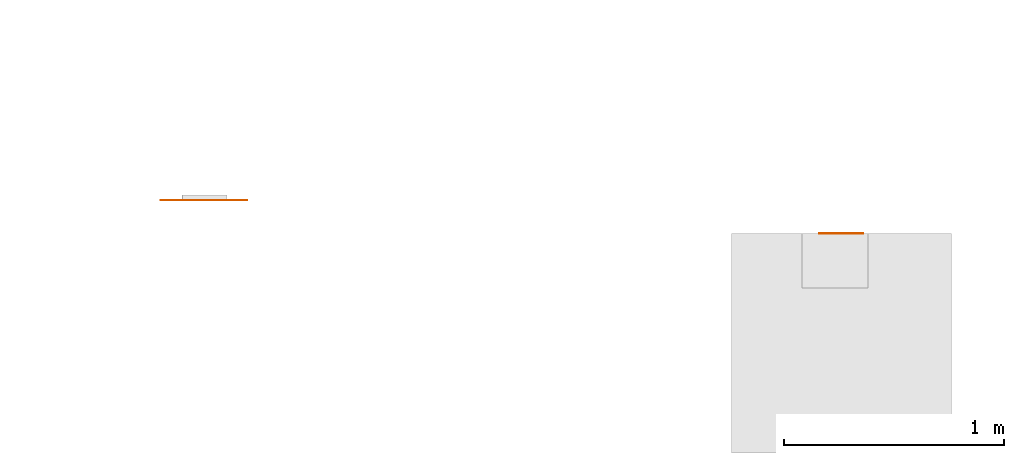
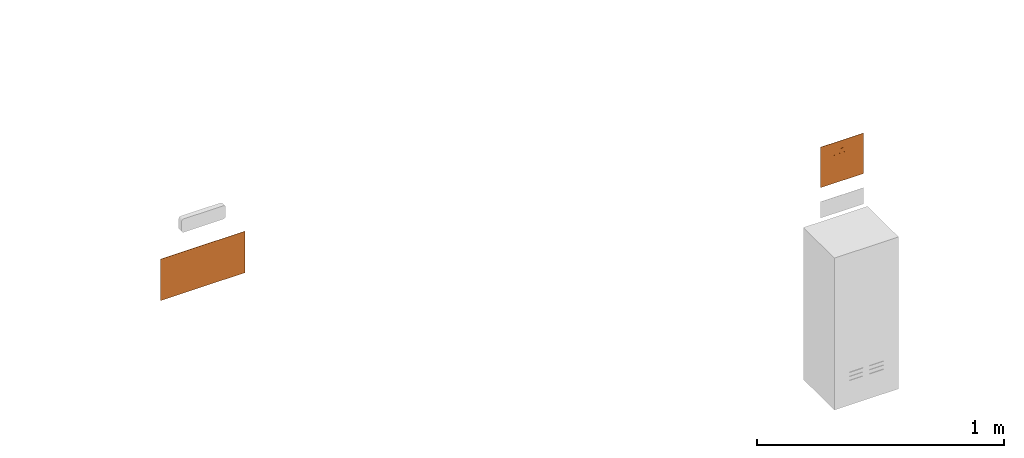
# One storey, part 111 of 119: 2 proxies.
"""IFC2X3 building model written with IfcOpenShell, lengths in metres."""

import ifcopenshell
import ifcopenshell.guid

model = None  # the IFC model being written
_history = None  # IfcOwnerHistory: only IFC2X3 demands one
_inside = {}  # id of a spatial element -> (the spatial element, [elements in it])
_under = {}  # id of a project, library or spatial element -> (it, [spatial elements below it])
_declared = {}  # id of a project -> (the project, [libraries it declares])
_typed = {}  # id of a type object -> (the type object, [elements of that type])
_made_of = {}  # id of a material, layer set ... -> (it, [elements and type objects made of it])


def new_model(schema):
    """Start an empty IFC model of exactly this schema.

    Asked for "IFC4X3", IfcOpenShell would pick the latest addendum, in which some entities
    have other attributes; the version numbers below select the first issue.
    IFC2X3 requires an IfcOwnerHistory on every rooted entity: one is made here for all.
    """
    global model, _history
    if schema == "IFC4X3":
        model = ifcopenshell.file(schema_version=(4, 3, 0, 0))
    else:
        model = ifcopenshell.file(schema=schema)
    _inside.clear()
    _under.clear()
    _declared.clear()
    _typed.clear()
    _made_of.clear()
    _history = None
    if model.schema == "IFC2X3":
        org = make("IfcOrganization", Name="unknown")
        user = make(
            "IfcPersonAndOrganization",
            ThePerson=make("IfcPerson", FamilyName="unknown"),
            TheOrganization=org,
        )
        app = make(
            "IfcApplication",
            ApplicationDeveloper=org,
            Version="unknown",
            ApplicationFullName="unknown",
            ApplicationIdentifier="unknown",
        )
        _history = make(
            "IfcOwnerHistory",
            OwningUser=user,
            OwningApplication=app,
            ChangeAction="ADDED",
            CreationDate=0,
        )
    return model


def make(cls, **values):
    """One entity of the class cls with the attributes given. An attribute that is None is left unset."""
    return model.create_entity(
        cls, **{name: value for name, value in values.items() if value is not None}
    )


def entity(cls, *values):
    """Any entity or typed value of the class cls, its attributes in the order of the schema. None: left unset."""
    e = model.create_entity(cls)
    for i, value in enumerate(values):
        if value is not None:
            e[i] = value
    return e


def rooted(cls, **values):
    """An entity with a GlobalId (a new one), such as an element, a storey or a relation."""
    return make(cls, GlobalId=ifcopenshell.guid.new(), OwnerHistory=_history, **values)


def si_unit(unit_type, name, prefix=None):
    """IfcSIUnit, for example si_unit("LENGTHUNIT", "METRE", prefix="MILLI")."""
    return make("IfcSIUnit", UnitType=unit_type, Prefix=prefix, Name=name)


def converted_unit(unit_type, name, factor, base, dimensions=None, offset=None):
    """IfcConversionBasedUnit, such as the inch: factor (a typed value) times the base unit."""
    return make(
        "IfcConversionBasedUnit"
        if offset is None
        else "IfcConversionBasedUnitWithOffset",
        ConversionOffset=offset,
        Dimensions=None
        if dimensions is None
        else entity("IfcDimensionalExponents", *dimensions),
        UnitType=unit_type,
        Name=name,
        ConversionFactor=make(
            "IfcMeasureWithUnit", ValueComponent=factor, UnitComponent=base
        ),
    )


def derived_unit(unit_type, elements):
    """IfcDerivedUnit: a product of units, each with its exponent."""
    return make(
        "IfcDerivedUnit",
        Elements=[
            make("IfcDerivedUnitElement", Unit=unit, Exponent=power)
            for unit, power in elements
        ],
        UnitType=unit_type,
    )


def assignment(units):
    """IfcUnitAssignment: the units of a project."""
    return None if units is None else make("IfcUnitAssignment", Units=units)


def point(xyz):
    """IfcCartesianPoint."""
    return None if xyz is None else make("IfcCartesianPoint", Coordinates=xyz)


def direction(xyz):
    """IfcDirection."""
    return None if xyz is None else make("IfcDirection", DirectionRatios=xyz)


def frame(location, z_axis=None, x_axis=None):
    """IfcAxis2Placement3D, a coordinate frame: its origin and axes. An axis left out is left unset."""
    return make(
        "IfcAxis2Placement3D",
        Location=point(location),
        Axis=direction(z_axis),
        RefDirection=direction(x_axis),
    )


def frame_2d(location, x_axis=None):
    """IfcAxis2Placement2D, a coordinate frame in the plane: its origin and x axis."""
    return make(
        "IfcAxis2Placement2D", Location=point(location), RefDirection=direction(x_axis)
    )


def origin():
    """The frame at (0, 0, 0) with its axes left unset."""
    return frame((0.0, 0.0, 0.0))


def origin_2d_with_axis():
    """The frame at (0, 0) in the plane with the x axis (1, 0) written out."""
    return frame_2d((0.0, 0.0), x_axis=(1.0, 0.0))


def place(relative_to, where):
    """IfcLocalPlacement: puts the frame where relative to a parent placement (None: the world)."""
    return make(
        "IfcLocalPlacement", PlacementRelTo=relative_to, RelativePlacement=where
    )


def context(
    kind, dimensions, precision=None, world=None, true_north=None, identifier=None
):
    """IfcGeometricRepresentationContext, for example the 3D "Model" context."""
    return make(
        "IfcGeometricRepresentationContext",
        ContextIdentifier=identifier,
        ContextType=kind,
        CoordinateSpaceDimension=dimensions,
        Precision=precision,
        WorldCoordinateSystem=world,
        TrueNorth=true_north,
    )


def subcontext(parent, identifier, kind, view, scale=None):
    """IfcGeometricRepresentationSubContext, for example "Body" below "Model"."""
    return make(
        "IfcGeometricRepresentationSubContext",
        ContextIdentifier=identifier,
        ContextType=kind,
        ParentContext=parent,
        TargetScale=scale,
        TargetView=view,
    )


def project(units=None, contexts=None):
    """IfcProject with its units and contexts."""
    return rooted(
        "IfcProject",
        Name="project",
        RepresentationContexts=contexts,
        UnitsInContext=assignment(units),
    )


def spatial(cls, under=None, at=None, **own):
    """A site, building, storey or space (cls), placed at a placement, below another one or the project."""
    s = rooted(cls, ObjectPlacement=at, **own)
    if under is not None:
        _under.setdefault(under.id(), (under, []))[1].append(s)
    return s


def polyline(points):
    """IfcPolyline through the points."""
    return make("IfcPolyline", Points=[point(p) for p in points])


def circle_curve(where, radius):
    """IfcCircle in the frame where."""
    return make("IfcCircle", Position=where, Radius=radius)


def parameter(value):
    """IfcParameterValue: where a trimmed curve begins or ends, as a parameter of its basis curve."""
    return model.create_entity("IfcParameterValue", value)


def trimmed(basis, trim1, trim2, sense, master):
    """IfcTrimmedCurve: the piece of a basis curve between two trims."""
    return make(
        "IfcTrimmedCurve",
        BasisCurve=basis,
        Trim1=trim1,
        Trim2=trim2,
        SenseAgreement=sense,
        MasterRepresentation=master,
    )


def segment(curve, same_sense, transition):
    """IfcCompositeCurveSegment."""
    return make(
        "IfcCompositeCurveSegment",
        Transition=transition,
        SameSense=same_sense,
        ParentCurve=curve,
    )


def composite_curve(segments, self_intersect=None):
    """IfcCompositeCurve: segments joined end to end."""
    return make("IfcCompositeCurve", Segments=segments, SelfIntersect=self_intersect)


def profile(cls, at=None, kind="AREA", **sizes):
    """A parametric profile (cls). Its sizes go by their IFC names, for example OverallWidth=200.0."""
    return make(cls, ProfileType=kind, Position=at, **sizes)


def rectangle(**sizes):
    """IfcRectangleProfileDef."""
    return profile("IfcRectangleProfileDef", **sizes)


def outline(outer, holes=None, kind="AREA"):
    """IfcArbitraryClosedProfileDef: a profile drawn as a closed curve; with holes, ...WithVoids."""
    if holes is None:
        return make("IfcArbitraryClosedProfileDef", ProfileType=kind, OuterCurve=outer)
    return make(
        "IfcArbitraryProfileDefWithVoids",
        ProfileType=kind,
        OuterCurve=outer,
        InnerCurves=holes,
    )


def extrude(swept, where, along, depth):
    """IfcExtrudedAreaSolid: the profile swept, set in the frame where, extruded along a direction by depth."""
    return make(
        "IfcExtrudedAreaSolid",
        SweptArea=swept,
        Position=where,
        ExtrudedDirection=direction(along),
        Depth=depth,
    )


def shape(context_of_items, identifier, shape_type, items):
    """IfcShapeRepresentation: the items that make up one representation, for example the "Body"."""
    return make(
        "IfcShapeRepresentation",
        ContextOfItems=context_of_items,
        RepresentationIdentifier=identifier,
        RepresentationType=shape_type,
        Items=items,
    )


def source(mapping_origin, context_of_items, identifier, shape_type, items):
    """IfcRepresentationMap: a shape defined once, which mapped items show again and again."""
    return make(
        "IfcRepresentationMap",
        MappingOrigin=mapping_origin,
        MappedRepresentation=shape(context_of_items, identifier, shape_type, items),
    )


def transform(
    local_origin,
    x_axis=None,
    y_axis=None,
    z_axis=None,
    scale=None,
    scale2=None,
    scale3=None,
    uniform=True,
):
    """IfcCartesianTransformationOperator3D, or its non-uniform kind. x_axis, y_axis, z_axis: its Axis1, 2, 3."""
    if uniform:
        return make(
            "IfcCartesianTransformationOperator3D",
            Axis1=direction(x_axis),
            Axis2=direction(y_axis),
            LocalOrigin=point(local_origin),
            Scale=scale,
            Axis3=direction(z_axis),
        )
    return make(
        "IfcCartesianTransformationOperator3DnonUniform",
        Axis1=direction(x_axis),
        Axis2=direction(y_axis),
        LocalOrigin=point(local_origin),
        Scale=scale,
        Axis3=direction(z_axis),
        Scale2=scale2,
        Scale3=scale3,
    )


def mapped(mapping_source, mapping_target):
    """IfcMappedItem: shows the shape of a source again, moved by a transform."""
    return make(
        "IfcMappedItem", MappingSource=mapping_source, MappingTarget=mapping_target
    )


def material(Name=None, Category=None):
    """IfcMaterial."""
    return make("IfcMaterial", Name=Name, Category=Category)


def material_list(materials):
    """IfcMaterialList."""
    return make("IfcMaterialList", Materials=materials)


def made_of(thing, what):
    """Note that an element or type object is made of a material, layer set ...; save() writes the relation."""
    if what is not None:
        _made_of.setdefault(what.id(), (what, []))[1].append(thing)
    return thing


def type_object(cls, material=None, **own):
    """A type object (cls), such as IfcWallType, which elements share."""
    return made_of(rooted(cls, **own), material)


def type_shapes(of_type, sources):
    """Give a type object the sources (RepresentationMaps) that its elements show as mapped items."""
    of_type.RepresentationMaps = sources


def element(
    cls,
    number,
    at=None,
    inside=None,
    cuts=None,
    type_object=None,
    material=None,
    context=None,
    identifier="Body",
    shape_type=None,
    held_by="IfcProductDefinitionShape",
    body=None,
    shapes=None,
    **own,
):
    """One element of the class cls, such as IfcWall. Its Tag is "e" and its number.

    at: its placement. inside: the storey or other place that contains it. cuts: it is an
    opening in that element (IfcRelVoidsElement). A single representation is given by context,
    identifier, shape_type and body (its items); several are given by shapes. held_by: the class
    of the entity that holds the representations. save() writes the other relations.
    """
    e = rooted(cls, Tag="e%d" % number, ObjectPlacement=at, **own)
    if body is not None:
        shapes = [shape(context, identifier, shape_type, body)]
    if shapes is not None:
        e.Representation = make(held_by, Representations=shapes)
    if inside is not None:
        _inside.setdefault(inside.id(), (inside, []))[1].append(e)
    if cuts is not None:
        rooted(
            "IfcRelVoidsElement", RelatingBuildingElement=cuts, RelatedOpeningElement=e
        )
    if type_object is not None:
        _typed.setdefault(type_object.id(), (type_object, []))[1].append(e)
    return made_of(e, material)


def aggregate(whole, parts):
    """IfcRelAggregates: a whole, such as a stair, and the parts it consists of."""
    return rooted("IfcRelAggregates", RelatingObject=whole, RelatedObjects=parts)


def save(model, path):
    """Write the relations noted so far, then the file.

    IfcRelAggregates (storeys below a building ...), IfcRelContainedInSpatialStructure (elements
    in a storey), IfcRelDefinesByType, IfcRelAssociatesMaterial and IfcRelDeclares: one each for
    every whole, place, type object, material and project.
    """
    for whole, parts in _under.values():
        aggregate(whole, parts)
    for where, things in _inside.values():
        rooted(
            "IfcRelContainedInSpatialStructure",
            RelatedElements=things,
            RelatingStructure=where,
        )
    for kind, things in _typed.values():
        rooted("IfcRelDefinesByType", RelatedObjects=things, RelatingType=kind)
    for what, things in _made_of.values():
        rooted("IfcRelAssociatesMaterial", RelatedObjects=things, RelatingMaterial=what)
    for by, libraries in _declared.values():
        rooted("IfcRelDeclares", RelatingContext=by, RelatedDefinitions=libraries)
    model.write(path)


model = new_model("IFC2X3")

# Units and contexts
model_context = context("Model", 3, precision=1e-05, world=origin(), true_north=direction((6.12303176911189e-17, 1.0)))
body_context = subcontext(model_context, "Body", "Model", "MODEL_VIEW")
ifc_project = project(units=[si_unit("LENGTHUNIT", "METRE"), si_unit("AREAUNIT", "SQUARE_METRE"), si_unit("VOLUMEUNIT", "CUBIC_METRE"), converted_unit("PLANEANGLEUNIT", "DEGREE", entity("IfcRatioMeasure", 0.0174532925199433), si_unit("PLANEANGLEUNIT", "RADIAN"), dimensions=[0, 0, 0, 0, 0, 0, 0]), si_unit("MASSUNIT", "GRAM", prefix="KILO"), derived_unit("MASSDENSITYUNIT", [(si_unit("MASSUNIT", "GRAM", prefix="KILO"), 1), (si_unit("LENGTHUNIT", "METRE"), -3)]), derived_unit("MOMENTOFINERTIAUNIT", [(si_unit("LENGTHUNIT", "METRE"), 4)]), si_unit("TIMEUNIT", "SECOND"), si_unit("FREQUENCYUNIT", "HERTZ"), si_unit("THERMODYNAMICTEMPERATUREUNIT", "DEGREE_CELSIUS"), derived_unit("THERMALTRANSMITTANCEUNIT", [(si_unit("MASSUNIT", "GRAM", prefix="KILO"), 1), (si_unit("THERMODYNAMICTEMPERATUREUNIT", "KELVIN"), -1), (si_unit("TIMEUNIT", "SECOND"), -3)]), derived_unit("VOLUMETRICFLOWRATEUNIT", [(si_unit("LENGTHUNIT", "METRE"), 3), (si_unit("TIMEUNIT", "SECOND"), -1)]), si_unit("ELECTRICCURRENTUNIT", "AMPERE"), si_unit("ELECTRICVOLTAGEUNIT", "VOLT"), si_unit("POWERUNIT", "WATT"), si_unit("FORCEUNIT", "NEWTON", prefix="KILO"), si_unit("ILLUMINANCEUNIT", "LUX"), si_unit("LUMINOUSFLUXUNIT", "LUMEN"), si_unit("LUMINOUSINTENSITYUNIT", "CANDELA"), derived_unit("USERDEFINED", [(si_unit("MASSUNIT", "GRAM", prefix="KILO"), -1), (si_unit("LENGTHUNIT", "METRE"), -2), (si_unit("TIMEUNIT", "SECOND"), 3), (si_unit("LUMINOUSFLUXUNIT", "LUMEN"), 1)]), derived_unit("LINEARVELOCITYUNIT", [(si_unit("LENGTHUNIT", "METRE"), 1), (si_unit("TIMEUNIT", "SECOND"), -1)]), si_unit("PRESSUREUNIT", "PASCAL"), derived_unit("USERDEFINED", [(si_unit("LENGTHUNIT", "METRE"), -2), (si_unit("MASSUNIT", "GRAM", prefix="KILO"), 1), (si_unit("TIMEUNIT", "SECOND"), -2)]), derived_unit("LINEARFORCEUNIT", [(si_unit("MASSUNIT", "GRAM", prefix="KILO"), 1), (si_unit("LENGTHUNIT", "METRE"), 1), (si_unit("TIMEUNIT", "SECOND"), -2), (si_unit("LENGTHUNIT", "METRE"), -1)]), derived_unit("PLANARFORCEUNIT", [(si_unit("MASSUNIT", "GRAM", prefix="KILO"), 1), (si_unit("LENGTHUNIT", "METRE"), 1), (si_unit("TIMEUNIT", "SECOND"), -2), (si_unit("LENGTHUNIT", "METRE"), -2)])], contexts=[model_context])

# Site, building, storey
site_placement = place(None, origin())
site = spatial("IfcSite", under=ifc_project, at=site_placement, Name="Default", CompositionType="ELEMENT")
building_placement = place(site_placement, origin())
building = spatial("IfcBuilding", under=site, at=building_placement, CompositionType="ELEMENT")
storey_placement = place(building_placement, origin())
storey = spatial("IfcBuildingStorey", under=building, at=storey_placement, Name="PAV. 01 - TÉRREO", CompositionType="ELEMENT", Elevation=0.0)

# Proxies
ifc_material_1 = material(Name="Plastico branco")
ifc_material_2 = material(Name="Plastico vermelho")
ifc_material_list_1 = material_list([ifc_material_1, ifc_material_2])
building_element_proxy_type_1 = type_object("IfcBuildingElementProxyType", Name="Sinalização de equipamentos - E05 - Extintor de incêndio:Distância 08m", PredefinedType="NOTDEFINED", material=ifc_material_1)
shared_shape_1 = source(origin(), body_context, "Body", "SweptSolid", [
    extrude(outline(composite_curve([segment(polyline([(-0.039533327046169, -0.0988107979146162), (0.0136590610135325, -0.0988107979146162)]), True, "CONTINUOUS"), segment(polyline([(0.0136590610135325, -0.0988107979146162), (0.0136590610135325, -0.0150548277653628)]), True, "CONTINUOUS"), segment(polyline([(0.0136590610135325, -0.0150548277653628), (0.0132403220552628, -0.0112272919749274)]), True, "CONTINUOUS"), segment(polyline([(0.0132403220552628, -0.0112272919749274), (0.0119841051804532, -0.00798860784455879)]), True, "CONTINUOUS"), segment(polyline([(0.0119841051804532, -0.00798860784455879), (0.00989041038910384, -0.00533877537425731)]), True, "CONTINUOUS"), segment(polyline([(0.00989041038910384, -0.00533877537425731), (0.00695923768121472, -0.00327779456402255)]), True, "CONTINUOUS"), segment(polyline([(0.00695923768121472, -0.00327779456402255), (0.00319058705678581, -0.00180566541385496)]), True, "CONTINUOUS"), segment(polyline([(0.00319058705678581, -0.00180566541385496), (-0.00141554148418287, -0.000922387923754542)]), True, "CONTINUOUS"), segment(polyline([(-0.00141554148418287, -0.000922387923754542), (-0.00685914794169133, -0.000627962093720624)]), True, "CONTINUOUS"), segment(polyline([(-0.00685914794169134, -0.000627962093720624), (-0.00685914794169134, 0.00837547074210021)]), True, "CONTINUOUS"), segment(polyline([(-0.00685914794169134, 0.00837547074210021), (0.000568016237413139, 0.00837547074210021)]), True, "CONTINUOUS"), segment(polyline([(0.000568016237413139, 0.00837547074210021), (0.021500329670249, -0.0075875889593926)]), True, "CONTINUOUS"), segment(polyline([(0.021500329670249, -0.0075875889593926), (0.021500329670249, -0.0104328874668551)]), True, "CONTINUOUS"), segment(polyline([(0.021500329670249, -0.0104328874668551), (0.0245059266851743, -0.0104328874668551)]), True, "CONTINUOUS"), segment(polyline([(0.0245059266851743, -0.0104328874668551), (0.0245059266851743, -0.00811335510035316)]), True, "CONTINUOUS"), segment(polyline([(0.0245059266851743, -0.00811335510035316), (0.0243642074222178, -0.00545038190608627)]), True, "CONTINUOUS"), segment(polyline([(0.0243642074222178, -0.00545038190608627), (0.0239570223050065, -0.0032112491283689)]), True, "CONTINUOUS"), segment(polyline([(0.0239570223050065, -0.0032112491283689), (0.0233113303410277, -0.00132119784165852)]), True, "CONTINUOUS"), segment(polyline([(0.0233113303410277, -0.00132119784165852), (0.0224540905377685, 0.00029453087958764)]), True, "CONTINUOUS"), segment(polyline([(0.0224540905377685, 0.00029453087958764), (0.0214122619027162, 0.00171069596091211)]), True, "CONTINUOUS"), segment(polyline([(0.0214122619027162, 0.00171069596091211), (0.0202128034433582, 0.00300205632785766)]), True, "CONTINUOUS"), segment(polyline([(0.0202128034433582, 0.00300205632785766), (0.0188826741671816, 0.00424337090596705)]), True, "CONTINUOUS"), segment(polyline([(0.0188826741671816, 0.00424337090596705), (0.0144021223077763, 0.00811180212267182)]), True, "CONTINUOUS"), segment(polyline([(0.0144021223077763, 0.00811180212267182), (0.0113518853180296, 0.0106145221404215)]), True, "CONTINUOUS"), segment(polyline([(0.0113518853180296, 0.0106145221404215), (0.0085825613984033, 0.0127576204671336)]), True, "CONTINUOUS"), segment(polyline([(0.0085825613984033, 0.0127576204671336), (0.00738733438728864, 0.0136170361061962)]), True, "CONTINUOUS"), segment(polyline([(0.00738733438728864, 0.0136170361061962), (0.00631521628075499, 0.0143235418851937)]), True, "CONTINUOUS"), segment(polyline([(0.00631521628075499, 0.0143235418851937), (0.00532850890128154, 0.0148903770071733)]), True, "CONTINUOUS"), segment(polyline([(0.00532850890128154, 0.0148903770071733), (0.00438926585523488, 0.0153309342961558)]), True, "CONTINUOUS"), segment(polyline([(0.00438926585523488, 0.0153309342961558), (0.00345954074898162, 0.0156586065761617)]), True, "CONTINUOUS"), segment(polyline([(0.00345954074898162, 0.0156586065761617), (0.00250138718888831, 0.0158867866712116)]), True, "CONTINUOUS"), segment(polyline([(0.00250138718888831, 0.0158867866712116), (0.00144087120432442, 0.0160289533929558)]), True, "CONTINUOUS"), segment(polyline([(0.00144087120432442, 0.0160289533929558), (-0.000108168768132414, 0.0160993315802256)]), True, "CONTINUOUS"), segment(polyline([(-0.000108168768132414, 0.0160993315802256), (-0.00685914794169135, 0.0160831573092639)]), True, "CONTINUOUS"), segment(polyline([(-0.00685914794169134, 0.0160831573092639), (-0.00685914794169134, 0.0213863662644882)]), True, "CONTINUOUS"), segment(polyline([(-0.00685914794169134, 0.0213863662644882), (-0.0177728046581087, 0.0213863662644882)]), True, "CONTINUOUS"), segment(polyline([(-0.0177728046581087, 0.0213863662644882), (-0.0177728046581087, 0.0160831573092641)]), True, "CONTINUOUS"), segment(polyline([(-0.0177728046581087, 0.0160831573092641), (-0.0288467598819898, 0.0160831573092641)]), True, "CONTINUOUS"), segment(trimmed(circle_curve(frame_2d((-0.0288467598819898, 0.0122293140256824), x_axis=(-1.0, 0.0)), 0.00385384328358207), [parameter(270.0)], [parameter(90.0000000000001)], True, "PARAMETER"), True, "CONTINUOUS"), segment(polyline([(-0.0288467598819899, 0.00837547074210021), (-0.0190151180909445, 0.00837547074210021)]), True, "CONTINUOUS"), segment(polyline([(-0.0190151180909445, 0.00837547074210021), (-0.0190151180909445, -0.000627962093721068)]), True, "CONTINUOUS"), segment(polyline([(-0.0190151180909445, -0.000627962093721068), (-0.024458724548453, -0.000922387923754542)]), True, "CONTINUOUS"), segment(polyline([(-0.024458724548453, -0.000922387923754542), (-0.0290648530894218, -0.00180566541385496)]), True, "CONTINUOUS"), segment(polyline([(-0.0290648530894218, -0.00180566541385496), (-0.0328335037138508, -0.00327779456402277)]), True, "CONTINUOUS"), segment(polyline([(-0.0328335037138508, -0.00327779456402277), (-0.03576467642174, -0.00533877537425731)]), True, "CONTINUOUS"), segment(polyline([(-0.03576467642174, -0.00533877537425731), (-0.0378583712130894, -0.00798860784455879)]), True, "CONTINUOUS"), segment(polyline([(-0.0378583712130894, -0.00798860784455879), (-0.0391145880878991, -0.0112272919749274)]), True, "CONTINUOUS"), segment(polyline([(-0.0391145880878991, -0.0112272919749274), (-0.039533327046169, -0.0150548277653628)]), True, "CONTINUOUS"), segment(polyline([(-0.039533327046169, -0.0150548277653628), (-0.039533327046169, -0.0988107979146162)]), True, "CONTINUOUS")], self_intersect=False)), frame((-0.0129371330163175, -0.0011, 1.94006139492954), z_axis=(0.0, 1.0, 0.0), x_axis=(-1.0, 0.0, 0.0)), (0.0, 0.0, 1.0), 0.0011),
    extrude(rectangle(XDim=0.001, YDim=0.179, at=origin_2d_with_axis()), frame((0.0, -0.0005, 1.8105), z_axis=(0.0, 0.0, 1.0), x_axis=(0.0, 1.0, 0.0)), (0.0, 0.0, 1.0), 0.179),
    extrude(outline(polyline([(-0.100000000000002, -0.1), (0.100000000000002, -0.1), (0.100000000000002, 0.1), (-0.100000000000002, 0.1), (-0.100000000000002, -0.1)]), holes=[polyline([(-0.0895000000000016, -0.0895000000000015), (-0.0895000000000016, 0.0894999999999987), (0.0894999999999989, 0.0894999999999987), (0.0894999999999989, -0.0895000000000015), (-0.0895000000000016, -0.0895000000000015)])]), frame((0.0, -0.001, 1.9), z_axis=(0.0, 1.0, 0.0), x_axis=(0.0, 0.0, -1.0)), (0.0, 0.0, 1.0), 0.001),
])
type_shapes(building_element_proxy_type_1, [shared_shape_1])
proxy_1_placement = place(storey_placement, frame((3.92406052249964, 66.8067778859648, 0.0)))
element("IfcBuildingElementProxy", 1, at=proxy_1_placement, inside=storey, type_object=building_element_proxy_type_1, material=ifc_material_list_1, Name="Sinalização de equipamentos - E05 - Extintor de incêndio:Distância 08m", ObjectType="Sinalização de equipamentos - E05 - Extintor de incêndio:Distância 08m", context=body_context, shape_type="MappedRepresentation", body=[
    mapped(shared_shape_1, transform((0.0, 0.0, 0.0), scale=1.0)),
])
ifc_material_3 = material(Name="Plastico Verde")
ifc_material_list_2 = material_list([ifc_material_1, ifc_material_3])
building_element_proxy_type_2 = type_object("IfcBuildingElementProxyType", Name="Sinalização de orientação - S12 - Saída de emergência:Distância 12m", PredefinedType="NOTDEFINED", material=ifc_material_1)
shared_shape_2 = source(origin(), body_context, "Body", "SweptSolid", [
    extrude(outline(polyline([(0.022665, -0.0273549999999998), (0.042445, -0.0273549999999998), (0.0110050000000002, 0.0634649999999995), (-0.0110349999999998, 0.0634649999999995), (-0.0429350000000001, -0.0273549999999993), (-0.0221550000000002, -0.0273549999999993), (-0.016355, -0.00875499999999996), (0.016365, -0.00875499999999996), (0.022665, -0.0273549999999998)]), holes=[polyline([(-0.0110349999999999, 0.00694499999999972), (8.50000000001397e-05, 0.0430049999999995), (0.011005, 0.00694499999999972), (-0.0110349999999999, 0.00694499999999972)])]), frame((0.137065, -0.0011, 2.284875), z_axis=(0.0, 1.0, 0.0), x_axis=(-1.0, 0.0, 0.0)), (0.0, 0.0, 1.0), 0.0011),
    extrude(outline(polyline([(0.00101999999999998, -0.00920000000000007), (0.01344, -0.00920000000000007), (0.00198000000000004, 0.00920000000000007), (-0.01644, 0.00920000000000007), (0.00101999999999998, -0.00920000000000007)])), frame((0.0041799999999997, -0.0011, 2.36684), z_axis=(0.0, 1.0, 0.0), x_axis=(-1.0, 0.0, 0.0)), (0.0, 0.0, 1.0), 0.0011),
    extrude(rectangle(XDim=0.0011, YDim=0.0186200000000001, at=origin_2d_with_axis()), frame((-0.00221000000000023, -0.00055, 2.25752), z_axis=(0.0, 0.0, 1.0), x_axis=(0.0, 1.0, 0.0)), (0.0, 0.0, 1.0), 0.0908200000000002),
    extrude(outline(polyline([(0.0226224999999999, -0.0273550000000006), (0.0423824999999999, -0.0273550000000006), (0.0109625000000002, 0.0634649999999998), (-0.0110974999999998, 0.0634649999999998), (-0.0425575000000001, -0.0273550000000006), (-0.0222175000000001, -0.0273550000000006), (-0.0164175, -0.0087550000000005), (0.0163224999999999, -0.0087550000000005), (0.0226224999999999, -0.0273550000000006)]), holes=[polyline([(-0.0110975, 0.00694499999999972), (2.25000000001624e-05, 0.0430049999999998), (0.0109625, 0.00694499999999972), (-0.0110975, 0.00694499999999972)])]), frame((-0.0607575, -0.0011, 2.284875), z_axis=(0.0, 1.0, 0.0), x_axis=(-1.0, 0.0, 0.0)), (0.0, 0.0, 1.0), 0.0011),
    extrude(outline(polyline([(-0.0593637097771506, -0.0416627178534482), (-0.0235037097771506, -0.0416627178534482), (-0.0155782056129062, -0.0414882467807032), (-0.00944676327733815, -0.0408437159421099), (-0.00458257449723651, -0.0395474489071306), (-0.000458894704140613, -0.0374178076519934), (0.00332259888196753, -0.0343505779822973), (0.00676252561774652, -0.0304813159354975), (0.00978475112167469, -0.0259918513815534), (0.0123131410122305, -0.0210640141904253), (0.0142715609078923, -0.0158796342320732), (0.0156118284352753, -0.0106067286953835), (0.0164003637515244, -0.00535668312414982), (0.0167329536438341, -0.000226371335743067), (0.0167053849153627, 0.00468733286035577), (0.0164134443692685, 0.00928755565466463), (0.015941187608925, 0.013495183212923), (0.015248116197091, 0.0174196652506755), (0.0142186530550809, 0.0212841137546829), (0.0127361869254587, 0.0253132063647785), (0.0106841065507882, 0.0297316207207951), (0.00791520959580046, 0.0347197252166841), (0.00390106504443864, 0.0399057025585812), (-0.00214544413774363, 0.0445430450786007), (-0.0110163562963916, 0.0478781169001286), (-0.0235037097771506, 0.0491572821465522), (-0.0593637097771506, 0.0491572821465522), (-0.0593637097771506, -0.0416627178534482)]), holes=[polyline([(-0.0407237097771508, 0.0334572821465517), (-0.0235037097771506, 0.0334572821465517), (-0.0184804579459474, 0.0328719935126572), (-0.0143606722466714, 0.0313003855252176), (-0.01104861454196, 0.0290188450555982), (-0.00844854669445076, 0.0263037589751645), (-0.00646492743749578, 0.0234093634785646), (-0.00500366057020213, 0.0204273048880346), (-0.00397129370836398, 0.0173767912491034), (-0.00327437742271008, 0.0142766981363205), (-0.00281946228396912, 0.011145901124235), (-0.00251671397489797, 0.00800245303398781), (-0.00233816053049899, 0.0048503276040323), (-0.0023077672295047, 0.00168167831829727), (-0.00245111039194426, -0.00151170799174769), (-0.00279376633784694, -0.00473804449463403), (-0.00336131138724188, -0.00800554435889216), (-0.00418197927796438, -0.011308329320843), (-0.0053013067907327, -0.014548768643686), (-0.00677175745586, -0.0175925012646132), (-0.00864581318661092, -0.020305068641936), (-0.0109759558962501, -0.022552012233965), (-0.0137994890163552, -0.0242105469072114), (-0.0169857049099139, -0.0252871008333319), (-0.0202993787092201, -0.0258684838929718), (-0.0235037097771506, -0.0260427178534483), (-0.0407237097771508, -0.0260427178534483), (-0.0407237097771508, 0.0334572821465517)])]), frame((0.0799837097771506, -0.0011, 2.30667728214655), z_axis=(0.0, 1.0, 0.0), x_axis=(1.0, 0.0, 0.0)), (0.0, 0.0, 1.0), 0.0011),
    extrude(outline(polyline([(-0.0345626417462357, 0.0187657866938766), (-0.0167626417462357, 0.0187657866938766), (-0.0160026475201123, 0.021720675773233), (-0.0150953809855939, 0.0241733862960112), (-0.0140440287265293, 0.0261781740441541), (-0.012851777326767, 0.0277892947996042), (-0.0115218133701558, 0.0290610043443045), (-0.0100573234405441, 0.0300475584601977), (-0.00846149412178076, 0.0308032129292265), (-0.00673751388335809, 0.0313822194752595), (-0.00489394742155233, 0.0318272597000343), (-0.00295651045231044, 0.0321441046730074), (-0.000954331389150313, 0.0323311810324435), (0.00108346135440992, 0.0323869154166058), (0.00312773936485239, 0.0323097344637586), (0.00514937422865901, 0.0320980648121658), (0.00711923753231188, 0.031750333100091), (0.00900820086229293, 0.0312649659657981), (0.010785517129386, 0.0306342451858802), (0.0124132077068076, 0.0298229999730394), (0.0138512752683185, 0.0287883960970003), (0.0150597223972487, 0.0274875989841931), (0.0159985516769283, 0.0258777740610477), (0.0166277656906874, 0.023916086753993), (0.016907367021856, 0.0215597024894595), (0.0167973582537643, 0.0187657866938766), (0.0162828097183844, 0.0172001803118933), (0.015351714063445, 0.0158433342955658), (0.0140362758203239, 0.0146686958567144), (0.0123686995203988, 0.013649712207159), (0.0103811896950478, 0.0127598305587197), (0.00810595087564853, 0.0119724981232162), (0.0055751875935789, 0.0112611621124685), (0.00282110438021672, 0.0105992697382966), (-0.0097799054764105, 0.00791382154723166), (-0.0131404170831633, 0.0070931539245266), (-0.0164874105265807, 0.00615022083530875), (-0.0197677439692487, 0.00505251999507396), (-0.0229282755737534, 0.00376754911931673), (-0.0259158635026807, 0.00226280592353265), (-0.0286773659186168, 0.000505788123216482), (-0.0311596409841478, -0.00153600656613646), (-0.0333095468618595, -0.00389508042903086), (-0.0350739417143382, -0.00660393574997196), (-0.0363996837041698, -0.00969507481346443), (-0.0372336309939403, -0.0132009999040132), (-0.0375226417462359, -0.0171542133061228), (-0.0369526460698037, -0.0241320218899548), (-0.0352963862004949, -0.0300763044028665), (-0.0326321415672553, -0.0350438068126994), (-0.0290381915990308, -0.0390912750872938), (-0.0245928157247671, -0.0422754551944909), (-0.0193742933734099, -0.0446530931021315), (-0.0134609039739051, -0.0462809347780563), (-0.00693092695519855, -0.0472157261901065), (0.000137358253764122, -0.0475142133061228), (0.00635452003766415, -0.0471678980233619), (0.0122978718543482, -0.0461110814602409), (0.0178453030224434, -0.0443239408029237), (0.0228747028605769, -0.0417866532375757), (0.0272639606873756, -0.0384793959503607), (0.0308909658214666, -0.0343823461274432), (0.033633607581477, -0.0294756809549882), (0.0353697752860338, -0.0237395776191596), (0.0359773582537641, -0.0171542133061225), (0.017837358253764, -0.0171542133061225), (0.0175636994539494, -0.0202050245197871), (0.0167888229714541, -0.0228103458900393), (0.0155818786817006, -0.0250059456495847), (0.0140120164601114, -0.0268275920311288), (0.0121483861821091, -0.0283110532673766), (0.0100601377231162, -0.0294920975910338), (0.00781642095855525, -0.0304064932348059), (0.00548638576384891, -0.0310900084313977), (0.00313811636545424, -0.0315777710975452), (0.000813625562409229, -0.0318892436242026), (-0.0014720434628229, -0.0320276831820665), (-0.00370509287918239, -0.0319955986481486), (-0.0058717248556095, -0.0317954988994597), (-0.0079581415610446, -0.0314298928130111), (-0.0099505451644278, -0.0309012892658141), (-0.0118351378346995, -0.0302121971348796), (-0.0135981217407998, -0.0293651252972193), (-0.015220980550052, -0.028358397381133), (-0.0166571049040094, -0.0271654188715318), (-0.0178495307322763, -0.0257504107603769), (-0.0187412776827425, -0.0240775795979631), (-0.019275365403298, -0.0221111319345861), (-0.0193948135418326, -0.0198152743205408), (-0.019042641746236, -0.0171542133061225), (-0.0182619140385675, -0.0153706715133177), (-0.0167498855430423, -0.0138072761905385), (-0.014644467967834, -0.0124427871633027), (-0.0120835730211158, -0.0112559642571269), (-0.00920511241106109, -0.0102255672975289), (-0.00614699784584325, -0.00933035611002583), (-0.00304714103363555, -0.0085490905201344), (0.00854519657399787, -0.00601654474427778), (0.0112531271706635, -0.00536949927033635), (0.0138997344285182, -0.00465127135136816), (0.0164923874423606, -0.00382905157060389), (0.0190384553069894, -0.00287003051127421), (0.021545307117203, -0.00174139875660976), (0.024010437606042, -0.000408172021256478), (0.0263792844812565, 0.00117609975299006), (0.0285801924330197, 0.00306163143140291), (0.0305414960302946, 0.00529864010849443), (0.0321915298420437, 0.00793734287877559), (0.0334586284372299, 0.0110279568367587), (0.0342711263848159, 0.0146206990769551), (0.0345573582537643, 0.0187657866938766), (0.0342104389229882, 0.0241388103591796), (0.0331330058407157, 0.0291645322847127), (0.0312655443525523, 0.0337668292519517), (0.0285485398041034, 0.0378695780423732), (0.0249224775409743, 0.0413966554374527), (0.0203278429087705, 0.0442719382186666), (0.0147051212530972, 0.0464193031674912), (0.00799479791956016, 0.0477626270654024), (0.000137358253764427, 0.0482257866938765), (-0.00858861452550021, 0.047492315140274), (-0.0161916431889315, 0.0453797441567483), (-0.0225917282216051, 0.0420205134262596), (-0.0277088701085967, 0.0375470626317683), (-0.0314630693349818, 0.032091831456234), (-0.0337743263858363, 0.0257872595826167), (-0.0345626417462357, 0.0187657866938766)])), frame((-0.144022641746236, -0.0011, 2.30259421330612), z_axis=(0.0, 1.0, 0.0), x_axis=(-1.0, 0.0, 0.0)), (0.0, 0.0, 1.0), 0.0011),
    extrude(rectangle(XDim=0.001, YDim=0.38, at=origin_2d_with_axis()), frame((0.0, -0.0005, 2.2075), z_axis=(0.0, 0.0, 1.0), x_axis=(0.0, 1.0, 0.0)), (0.0, 0.0, 1.0), 0.190000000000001),
    extrude(outline(polyline([(-0.102500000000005, -0.197499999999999), (0.102500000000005, -0.197499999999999), (0.102500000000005, 0.197499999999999), (-0.102500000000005, 0.197499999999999), (-0.102500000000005, -0.197499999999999)]), holes=[polyline([(-0.094999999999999, -0.189999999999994), (-0.094999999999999, 0.190000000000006), (0.0950000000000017, 0.190000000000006), (0.0950000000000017, -0.189999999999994), (-0.094999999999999, -0.189999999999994)])]), frame((0.0, -0.001, 2.30250000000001), z_axis=(0.0, 1.0, 0.0), x_axis=(0.0, 0.0, -1.0)), (0.0, 0.0, 1.0), 0.001),
])
type_shapes(building_element_proxy_type_2, [shared_shape_2])
proxy_2_placement = place(storey_placement, frame((1.02406052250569, 66.9567778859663, 0.0), z_axis=(0.0, 0.0, 1.0), x_axis=(-1.0, 0.0, 0.0)))
element("IfcBuildingElementProxy", 2, at=proxy_2_placement, inside=storey, type_object=building_element_proxy_type_2, material=ifc_material_list_2, Name="Sinalização de orientação - S12 - Saída de emergência:Distância 12m", ObjectType="Sinalização de orientação - S12 - Saída de emergência:Distância 12m", context=body_context, shape_type="MappedRepresentation", body=[
    mapped(shared_shape_2, transform((0.0, 0.0, 0.0), scale=1.0)),
])

save(model, "model.ifc")
